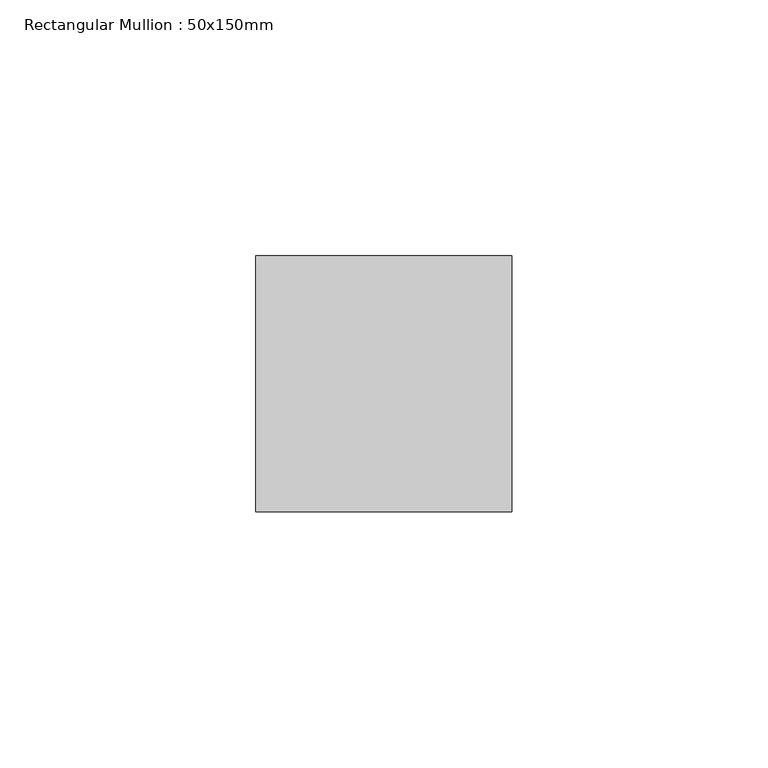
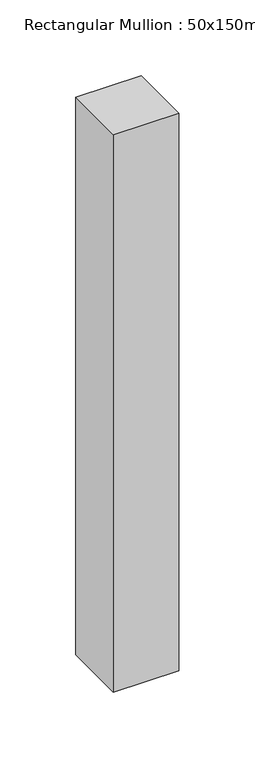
"""IFC4 building model written with IfcOpenShell, lengths in millimetres: member geometry, Rectangular Mullion : 50x150mm."""

from ifc_helpers import new_model, si_unit, frame, origin, place, context, project, spatial, polyline, outline, extrude, source, transform, mapped, element, save


def rectangular_mullion_50x150mm_d233cf5f(model_context):
    return source(origin(), model_context, "Body", "SweptSolid", [
        extrude(outline(polyline([(25.0, 25.0), (25.0, -25.0), (-25.0, -25.0), (-25.0, 25.0), (25.0, 25.0)])), frame((0.0, 0.0, -450.0), z_axis=(0.0, 0.0, 1.0), x_axis=(1.0, 0.0, 0.0)), (0.0, 0.0, 1.0), 450.0),
    ])


if __name__ == "__main__":
    model = new_model("IFC4")
    model_context = context("Model", 3, world=origin())
    ifc_project = project(units=[si_unit("LENGTHUNIT", "METRE", prefix="MILLI")], contexts=[model_context])
    site = spatial("IfcSite", under=ifc_project)
    building = spatial("IfcBuilding", under=site)
    placement = place(None, origin())
    rectangular_mullion_50x150mm_shape = rectangular_mullion_50x150mm_d233cf5f(model_context)
    element("IfcMember", 1, ObjectType="Rectangular Mullion : 50x150mm", at=placement, inside=building, context=model_context, shape_type="MappedRepresentation", body=[
        mapped(rectangular_mullion_50x150mm_shape, transform((0.0, 0.0, 0.0), x_axis=(1.0, 0.0, 0.0), y_axis=(0.0, 1.0, 0.0), z_axis=(0.0, 0.0, 1.0))),
    ])
    save(model, "model.ifc")
